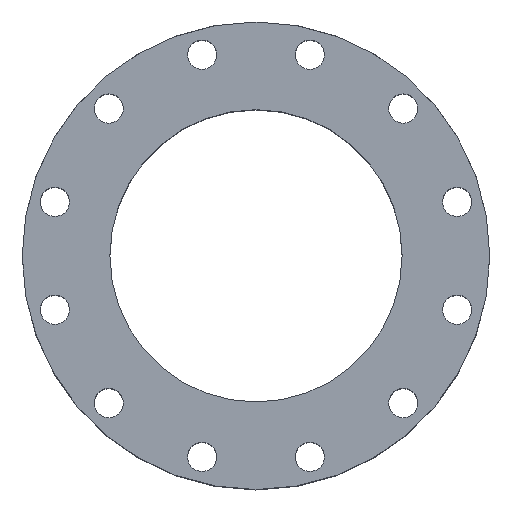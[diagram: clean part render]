
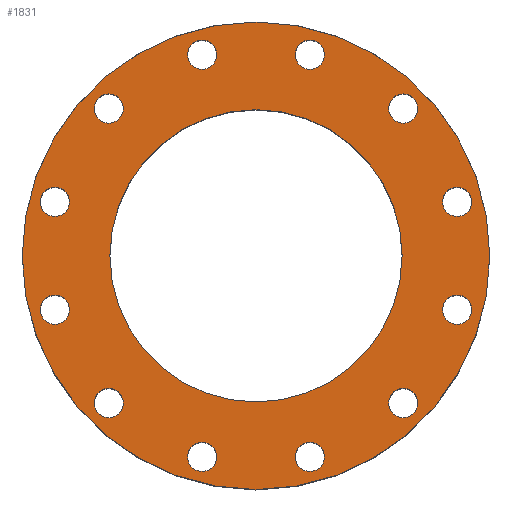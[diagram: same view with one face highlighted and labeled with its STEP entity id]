
A CAD part, top view. The second image highlights one B-rep face of the part: STEP entity #1831.
In plain terms, the highlighted planar face has unit normal (0, 0, 1).
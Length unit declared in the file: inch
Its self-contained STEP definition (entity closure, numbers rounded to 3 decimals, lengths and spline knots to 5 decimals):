
#48=FACE_BOUND('',#321,.T.);
#49=FACE_BOUND('',#322,.T.);
#50=FACE_BOUND('',#323,.T.);
#51=FACE_BOUND('',#324,.T.);
#52=FACE_BOUND('',#325,.T.);
#53=FACE_BOUND('',#326,.T.);
#54=FACE_BOUND('',#327,.T.);
#55=FACE_BOUND('',#328,.T.);
#56=FACE_BOUND('',#329,.T.);
#57=FACE_BOUND('',#330,.T.);
#58=FACE_BOUND('',#331,.T.);
#59=FACE_BOUND('',#332,.T.);
#60=FACE_BOUND('',#333,.T.);
#128=PLANE('',#2033);
#196=FACE_OUTER_BOUND('',#320,.T.);
#320=EDGE_LOOP('',(#1356));
#321=EDGE_LOOP('',(#1357));
#322=EDGE_LOOP('',(#1358));
#323=EDGE_LOOP('',(#1359));
#324=EDGE_LOOP('',(#1360));
#325=EDGE_LOOP('',(#1361));
#326=EDGE_LOOP('',(#1362));
#327=EDGE_LOOP('',(#1363));
#328=EDGE_LOOP('',(#1364));
#329=EDGE_LOOP('',(#1365));
#330=EDGE_LOOP('',(#1366));
#331=EDGE_LOOP('',(#1367));
#332=EDGE_LOOP('',(#1368));
#333=EDGE_LOOP('',(#1369));
#676=CIRCLE('',#1994,0.5);
#678=CIRCLE('',#1997,0.5);
#680=CIRCLE('',#2000,0.5);
#682=CIRCLE('',#2003,0.5);
#684=CIRCLE('',#2006,0.5);
#686=CIRCLE('',#2009,0.5);
#688=CIRCLE('',#2012,0.5);
#690=CIRCLE('',#2015,0.5);
#692=CIRCLE('',#2018,0.5);
#694=CIRCLE('',#2021,0.5);
#696=CIRCLE('',#2024,0.5);
#698=CIRCLE('',#2027,0.5);
#699=CIRCLE('',#2029,5.);
#701=CIRCLE('',#2032,8.);
#816=VERTEX_POINT('',#2873);
#818=VERTEX_POINT('',#2879);
#820=VERTEX_POINT('',#2885);
#822=VERTEX_POINT('',#2891);
#824=VERTEX_POINT('',#2897);
#826=VERTEX_POINT('',#2903);
#828=VERTEX_POINT('',#2909);
#830=VERTEX_POINT('',#2915);
#832=VERTEX_POINT('',#2921);
#834=VERTEX_POINT('',#2927);
#836=VERTEX_POINT('',#2933);
#838=VERTEX_POINT('',#2939);
#839=VERTEX_POINT('',#2943);
#841=VERTEX_POINT('',#2949);
#997=EDGE_CURVE('',#816,#816,#676,.T.);
#1000=EDGE_CURVE('',#818,#818,#678,.T.);
#1003=EDGE_CURVE('',#820,#820,#680,.T.);
#1006=EDGE_CURVE('',#822,#822,#682,.T.);
#1009=EDGE_CURVE('',#824,#824,#684,.T.);
#1012=EDGE_CURVE('',#826,#826,#686,.T.);
#1015=EDGE_CURVE('',#828,#828,#688,.T.);
#1018=EDGE_CURVE('',#830,#830,#690,.T.);
#1021=EDGE_CURVE('',#832,#832,#692,.T.);
#1024=EDGE_CURVE('',#834,#834,#694,.T.);
#1027=EDGE_CURVE('',#836,#836,#696,.T.);
#1030=EDGE_CURVE('',#838,#838,#698,.T.);
#1031=EDGE_CURVE('',#839,#839,#699,.T.);
#1035=EDGE_CURVE('',#841,#841,#701,.T.);
#1356=ORIENTED_EDGE('',*,*,#1035,.F.);
#1357=ORIENTED_EDGE('',*,*,#997,.T.);
#1358=ORIENTED_EDGE('',*,*,#1000,.T.);
#1359=ORIENTED_EDGE('',*,*,#1003,.T.);
#1360=ORIENTED_EDGE('',*,*,#1006,.T.);
#1361=ORIENTED_EDGE('',*,*,#1009,.T.);
#1362=ORIENTED_EDGE('',*,*,#1012,.T.);
#1363=ORIENTED_EDGE('',*,*,#1015,.T.);
#1364=ORIENTED_EDGE('',*,*,#1018,.T.);
#1365=ORIENTED_EDGE('',*,*,#1021,.T.);
#1366=ORIENTED_EDGE('',*,*,#1024,.T.);
#1367=ORIENTED_EDGE('',*,*,#1027,.T.);
#1368=ORIENTED_EDGE('',*,*,#1030,.T.);
#1369=ORIENTED_EDGE('',*,*,#1031,.T.);
#1831=ADVANCED_FACE('',(#196,#48,#49,#50,#51,#52,#53,#54,#55,#56,#57,#58,
#59,#60),#128,.F.);
#1994=AXIS2_PLACEMENT_3D('',#2875,#2342,#2343);
#1997=AXIS2_PLACEMENT_3D('',#2881,#2349,#2350);
#2000=AXIS2_PLACEMENT_3D('',#2887,#2356,#2357);
#2003=AXIS2_PLACEMENT_3D('',#2893,#2363,#2364);
#2006=AXIS2_PLACEMENT_3D('',#2899,#2370,#2371);
#2009=AXIS2_PLACEMENT_3D('',#2905,#2377,#2378);
#2012=AXIS2_PLACEMENT_3D('',#2911,#2384,#2385);
#2015=AXIS2_PLACEMENT_3D('',#2917,#2391,#2392);
#2018=AXIS2_PLACEMENT_3D('',#2923,#2398,#2399);
#2021=AXIS2_PLACEMENT_3D('',#2929,#2405,#2406);
#2024=AXIS2_PLACEMENT_3D('',#2935,#2412,#2413);
#2027=AXIS2_PLACEMENT_3D('',#2941,#2419,#2420);
#2029=AXIS2_PLACEMENT_3D('',#2944,#2423,#2424);
#2032=AXIS2_PLACEMENT_3D('',#2951,#2431,#2432);
#2033=AXIS2_PLACEMENT_3D('',#2952,#2433,#2434);
#2342=DIRECTION('center_axis',(0.,0.,
-1.));
#2343=DIRECTION('ref_axis',(0.5,-0.866,0.));
#2349=DIRECTION('center_axis',(0.,0.,
-1.));
#2350=DIRECTION('ref_axis',(0.,-1.,0.));
#2356=DIRECTION('center_axis',(0.,0.,
-1.));
#2357=DIRECTION('ref_axis',(-0.5,-0.866,0.));
#2363=DIRECTION('center_axis',(0.,0.,
-1.));
#2364=DIRECTION('ref_axis',(-0.866,-0.5,0.));
#2370=DIRECTION('center_axis',(0.,0.,
-1.));
#2371=DIRECTION('ref_axis',(-1.,0.,0.));
#2377=DIRECTION('center_axis',(0.,0.,
-1.));
#2378=DIRECTION('ref_axis',(-0.866,0.5,0.));
#2384=DIRECTION('center_axis',(0.,0.,
-1.));
#2385=DIRECTION('ref_axis',(-0.5,0.866,0.));
#2391=DIRECTION('center_axis',(0.,0.,
-1.));
#2392=DIRECTION('ref_axis',(0.,1.,0.));
#2398=DIRECTION('center_axis',(0.,0.,
-1.));
#2399=DIRECTION('ref_axis',(0.5,0.866,0.));
#2405=DIRECTION('center_axis',(0.,0.,
-1.));
#2406=DIRECTION('ref_axis',(0.866,0.5,0.));
#2412=DIRECTION('center_axis',(0.,0.,
-1.));
#2413=DIRECTION('ref_axis',(0.866,-0.5,0.));
#2419=DIRECTION('center_axis',(0.,0.,
-1.));
#2420=DIRECTION('ref_axis',(1.,0.,0.));
#2423=DIRECTION('center_axis',(0.,0.,
-1.));
#2424=DIRECTION('ref_axis',(-1.,0.,0.));
#2431=DIRECTION('center_axis',(0.,0.,
-1.));
#2432=DIRECTION('ref_axis',(1.,0.,0.));
#2433=DIRECTION('center_axis',(0.,0.,
-1.));
#2434=DIRECTION('ref_axis',(1.,0.,0.));
#2873=CARTESIAN_POINT('',(-7.13222,-1.41107,4.));
#2875=CARTESIAN_POINT('Origin',(-6.88222,-1.84409,4.));
#2879=CARTESIAN_POINT('',(-6.88222,2.34409,4.));
#2881=CARTESIAN_POINT('Origin',(-6.88222,1.84409,4.));
#2885=CARTESIAN_POINT('',(-4.78814,5.47115,4.));
#2887=CARTESIAN_POINT('Origin',(-5.03814,5.03814,4.));
#2891=CARTESIAN_POINT('',(-1.41107,7.13222,4.));
#2893=CARTESIAN_POINT('Origin',(-1.84409,6.88222,4.));
#2897=CARTESIAN_POINT('',(2.34409,6.88222,4.));
#2899=CARTESIAN_POINT('Origin',(1.84409,6.88222,4.));
#2903=CARTESIAN_POINT('',(5.47115,4.78814,4.));
#2905=CARTESIAN_POINT('Origin',(5.03814,5.03814,4.));
#2909=CARTESIAN_POINT('',(7.13222,1.41107,4.));
#2911=CARTESIAN_POINT('Origin',(6.88222,1.84409,4.));
#2915=CARTESIAN_POINT('',(6.88222,-2.34409,4.));
#2917=CARTESIAN_POINT('Origin',(6.88222,-1.84409,4.));
#2921=CARTESIAN_POINT('',(4.78814,-5.47115,4.));
#2923=CARTESIAN_POINT('Origin',(5.03814,-5.03814,4.));
#2927=CARTESIAN_POINT('',(1.41107,-7.13222,4.));
#2929=CARTESIAN_POINT('Origin',(1.84409,-6.88222,4.));
#2933=CARTESIAN_POINT('',(-5.47115,-4.78814,4.));
#2935=CARTESIAN_POINT('Origin',(-5.03814,-5.03814,4.));
#2939=CARTESIAN_POINT('',(-2.34409,-6.88222,4.));
#2941=CARTESIAN_POINT('Origin',(-1.84409,-6.88222,4.));
#2943=CARTESIAN_POINT('',(5.,0.,4.));
#2944=CARTESIAN_POINT('Origin',(0.,0.,
4.));
#2949=CARTESIAN_POINT('',(-8.,0.,4.));
#2951=CARTESIAN_POINT('Origin',(0.,0.,
4.));
#2952=CARTESIAN_POINT('Origin',(0.,0.,
4.));
